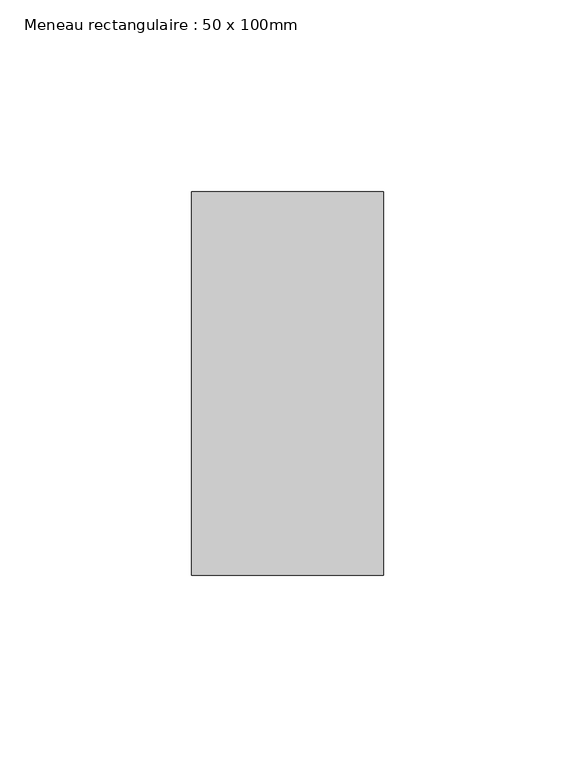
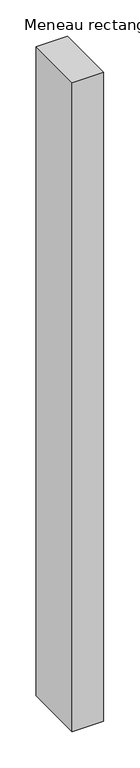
"""IFC4 building model written with IfcOpenShell, lengths in millimetres: member geometry, Meneau rectangulaire : 50 x 100mm."""

from ifc_helpers import new_model, si_unit, frame, origin, place, context, project, spatial, polyline, outline, extrude, source, transform, mapped, element, save


def meneau_rectangulaire_50_x_100mm_ea9b84e9(model_context):
    return source(origin(), model_context, "Body", "SweptSolid", [
        extrude(outline(polyline([(0.0, 50.0), (0.0, -50.0), (-50.0, -50.0), (-50.0, 50.0), (0.0, 50.0)])), frame((0.0, 0.0, -1093.2854498), z_axis=(0.0, 0.0, 1.0), x_axis=(1.0, 0.0, 0.0)), (0.0, 0.0, 1.0), 1093.2854498),
    ])


if __name__ == "__main__":
    model = new_model("IFC4")
    model_context = context("Model", 3, world=origin())
    ifc_project = project(units=[si_unit("LENGTHUNIT", "METRE", prefix="MILLI")], contexts=[model_context])
    site = spatial("IfcSite", under=ifc_project)
    building = spatial("IfcBuilding", under=site)
    placement = place(None, origin())
    meneau_rectangulaire_50_x_100mm_shape = meneau_rectangulaire_50_x_100mm_ea9b84e9(model_context)
    element("IfcMember", 1, ObjectType="Meneau rectangulaire : 50 x 100mm", at=placement, inside=building, context=model_context, shape_type="MappedRepresentation", body=[
        mapped(meneau_rectangulaire_50_x_100mm_shape, transform((0.0, 0.0, 0.0), x_axis=(1.0, 0.0, 0.0), y_axis=(0.0, 1.0, 0.0), z_axis=(0.0, 0.0, 1.0))),
    ])
    save(model, "model.ifc")
